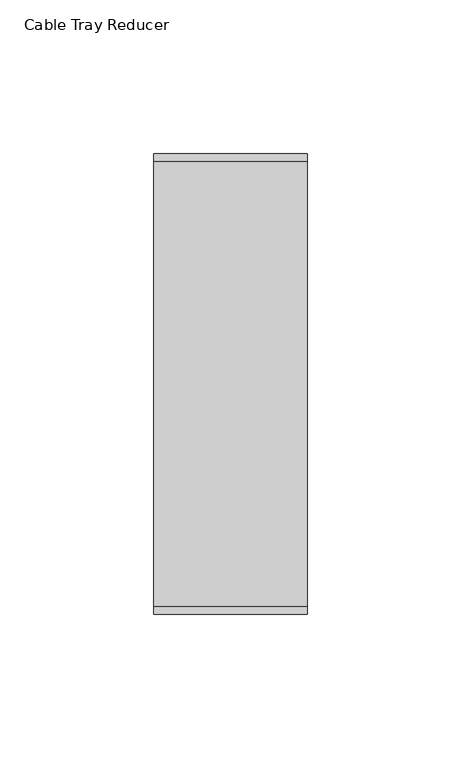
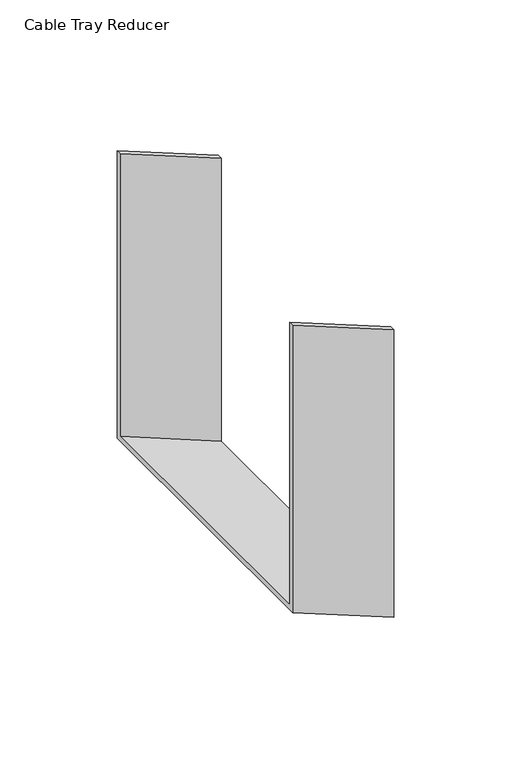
"""IFC4 building model written with IfcOpenShell, lengths in millimetres: cable carrier fitting geometry, Cable Tray Reducer : ELEC_ELV_TKG_N2402."""

from ifc_helpers import new_model, si_unit, origin, place, context, project, spatial, faceted_brep, source, transform, mapped, element, save


def cable_tray_reducer_1f1c3eca(model_context):
    return source(origin(), model_context, "Body", "Brep", [
        faceted_brep([(50.0, -75.0, -94.9999959), (50.0, 75.0, -94.9999959), (50.0, 75.0, 55.0000041), (50.0, 72.46, 55.0000041), (50.0, 72.46, -92.4599959), (50.0, -72.46, -92.4599959), (50.0, -72.46, 55.0000041), (50.0, -75.0, 55.0000041), (0.0, -75.0, -75.0), (0.0, -75.0, 75.0), (0.0, -72.46, 75.0), (0.0, -72.46, -72.46), (0.0, 72.46, -72.46), (0.0, 72.46, 75.0), (0.0, 75.0, 75.0), (0.0, 75.0, -75.0)], [[[0, 1, 2, 3, 4, 5, 6, 7]], [[8, 9, 10, 11, 12, 13, 14, 15]], [[8, 15, 1, 0]], [[15, 14, 2, 1]], [[14, 13, 3, 2]], [[13, 12, 4, 3]], [[12, 11, 5, 4]], [[11, 10, 6, 5]], [[10, 9, 7, 6]], [[9, 8, 0, 7]]]),
    ])


if __name__ == "__main__":
    model = new_model("IFC4")
    model_context = context("Model", 3, world=origin())
    ifc_project = project(units=[si_unit("LENGTHUNIT", "METRE", prefix="MILLI")], contexts=[model_context])
    site = spatial("IfcSite", under=ifc_project)
    building = spatial("IfcBuilding", under=site)
    placement = place(None, origin())
    cable_tray_reducer_shape = cable_tray_reducer_1f1c3eca(model_context)
    element("IfcCableCarrierFitting", 1, ObjectType="Cable Tray Reducer : ELEC_ELV_TKG_N2402", at=placement, inside=building, context=model_context, shape_type="MappedRepresentation", body=[
        mapped(cable_tray_reducer_shape, transform((0.0, 0.0, 0.0), x_axis=(1.0, 0.0, 0.0), y_axis=(0.0, 1.0, 0.0), z_axis=(0.0, 0.0, 1.0))),
    ])
    save(model, "model.ifc")
